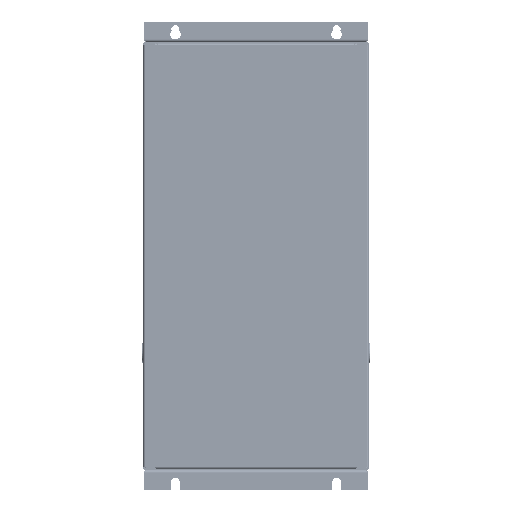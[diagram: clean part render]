
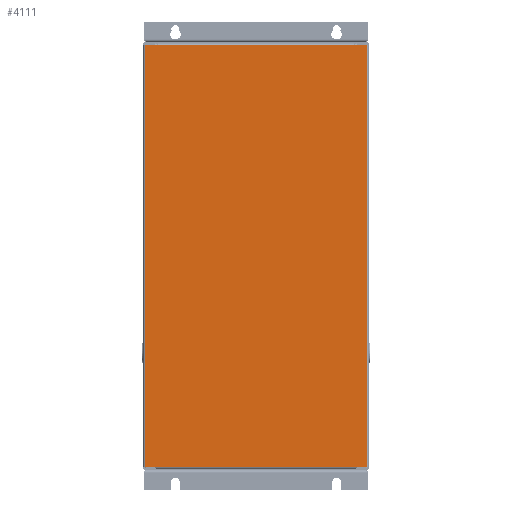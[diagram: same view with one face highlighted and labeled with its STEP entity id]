
A CAD part, left-side view. The second image highlights one B-rep face of the part: STEP entity #4111.
In plain terms, the highlighted planar face has unit normal (-1, 0, 0).
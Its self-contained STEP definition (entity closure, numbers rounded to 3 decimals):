
#4111=ADVANCED_FACE('',(#14194),#14196,.F.);
#14194=FACE_BOUND('',#14195,.T.);
#14195=EDGE_LOOP('',(#50113,#50114,#50115,#50116));
#14196=PLANE('',#14197);
#14197=AXIS2_PLACEMENT_3D('',#14198,#14199,#14200);
#14198=CARTESIAN_POINT('',(0.,0.,0.));
#14199=DIRECTION('',(1.,0.,0.));
#14200=DIRECTION('',(0.,1.,0.));
#50113=ORIENTED_EDGE('',*,*,#71104,.T.);
#50114=ORIENTED_EDGE('',*,*,#71059,.T.);
#50115=ORIENTED_EDGE('',*,*,#71105,.T.);
#50116=ORIENTED_EDGE('',*,*,#71106,.T.);
#71059=EDGE_CURVE('',#82318,#82320,#82322,.T.);
#71104=EDGE_CURVE('',#82396,#82318,#82397,.T.);
#71105=EDGE_CURVE('',#82320,#82398,#82399,.T.);
#71106=EDGE_CURVE('',#82398,#82396,#82400,.T.);
#82318=VERTEX_POINT('',#102130);
#82320=VERTEX_POINT('',#102135);
#82322=LINE('',#102140,#102141);
#82396=VERTEX_POINT('',#102321);
#82397=LINE('',#102322,#102323);
#82398=VERTEX_POINT('',#102325);
#82399=LINE('',#102326,#102327);
#82400=LINE('',#102329,#102330);
#102130=CARTESIAN_POINT('',(0.,137.5,261.5));
#102135=CARTESIAN_POINT('',(0.,137.5,-261.5));
#102140=CARTESIAN_POINT('',(0.,137.5,261.5));
#102141=VECTOR('',#102142,1.);
#102142=DIRECTION('',(0.,0.,-1.));
#102321=CARTESIAN_POINT('',(0.,-137.5,261.5));
#102322=CARTESIAN_POINT('',(0.,-137.5,261.5));
#102323=VECTOR('',#102324,1.);
#102324=DIRECTION('',(0.,1.,0.));
#102325=CARTESIAN_POINT('',(0.,-137.5,-261.5));
#102326=CARTESIAN_POINT('',(0.,137.5,-261.5));
#102327=VECTOR('',#102328,1.);
#102328=DIRECTION('',(0.,-1.,0.));
#102329=CARTESIAN_POINT('',(0.,-137.5,-261.5));
#102330=VECTOR('',#102331,1.);
#102331=DIRECTION('',(0.,0.,1.));
